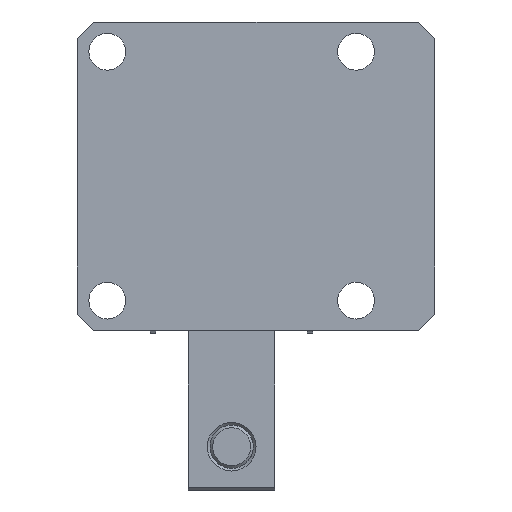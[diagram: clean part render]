
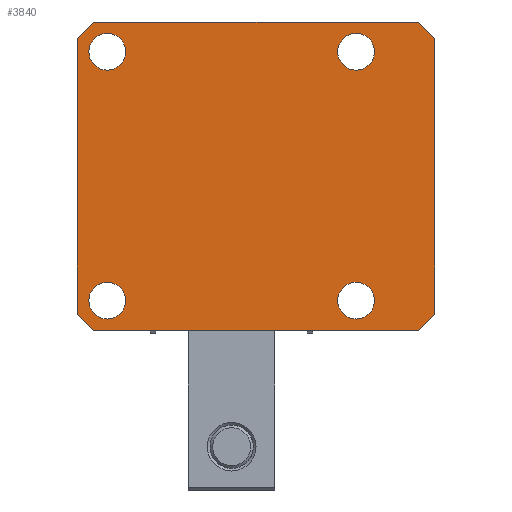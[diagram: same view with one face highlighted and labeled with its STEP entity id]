
A CAD part, front view. The second image highlights one B-rep face of the part: STEP entity #3840.
In plain terms, the highlighted planar face has unit normal (0, -1, 0).
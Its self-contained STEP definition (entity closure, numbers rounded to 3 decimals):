
#145=PLANE('',#4397);
#246=FACE_BOUND('',#687,.T.);
#247=FACE_BOUND('',#688,.T.);
#248=FACE_BOUND('',#689,.T.);
#249=FACE_BOUND('',#690,.T.);
#456=FACE_OUTER_BOUND('',#686,.T.);
#686=EDGE_LOOP('',(#2825,#2826,#2827,#2828,#2829,#2830,#2831,#2832));
#687=EDGE_LOOP('',(#2833));
#688=EDGE_LOOP('',(#2834));
#689=EDGE_LOOP('',(#2835));
#690=EDGE_LOOP('',(#2836));
#952=LINE('',#6260,#1256);
#980=LINE('',#6316,#1284);
#981=LINE('',#6320,#1285);
#982=LINE('',#6321,#1286);
#983=LINE('',#6323,#1287);
#984=LINE('',#6325,#1288);
#985=LINE('',#6327,#1289);
#986=LINE('',#6328,#1290);
#1256=VECTOR('',#4928,1000.);
#1284=VECTOR('',#4974,1000.);
#1285=VECTOR('',#4977,1000.);
#1286=VECTOR('',#4978,1000.);
#1287=VECTOR('',#4979,1000.);
#1288=VECTOR('',#4980,1000.);
#1289=VECTOR('',#4981,1000.);
#1290=VECTOR('',#4982,1000.);
#1536=CIRCLE('',#4337,3.4);
#1539=CIRCLE('',#4341,3.4);
#1540=CIRCLE('',#4343,3.4);
#1543=CIRCLE('',#4347,3.4);
#1726=VERTEX_POINT('',#5985);
#1729=VERTEX_POINT('',#5993);
#1730=VERTEX_POINT('',#5997);
#1733=VERTEX_POINT('',#6005);
#1775=VERTEX_POINT('',#6257);
#1776=VERTEX_POINT('',#6259);
#1795=VERTEX_POINT('',#6314);
#1796=VERTEX_POINT('',#6318);
#1797=VERTEX_POINT('',#6319);
#1798=VERTEX_POINT('',#6322);
#1799=VERTEX_POINT('',#6324);
#1800=VERTEX_POINT('',#6326);
#2099=EDGE_CURVE('',#1726,#1726,#1536,.T.);
#2103=EDGE_CURVE('',#1729,#1729,#1539,.T.);
#2105=EDGE_CURVE('',#1730,#1730,#1540,.T.);
#2109=EDGE_CURVE('',#1733,#1733,#1543,.T.);
#2167=EDGE_CURVE('',#1776,#1775,#952,.T.);
#2196=EDGE_CURVE('',#1795,#1775,#980,.T.);
#2197=EDGE_CURVE('',#1796,#1797,#981,.T.);
#2198=EDGE_CURVE('',#1797,#1776,#982,.T.);
#2199=EDGE_CURVE('',#1795,#1798,#983,.T.);
#2200=EDGE_CURVE('',#1798,#1799,#984,.T.);
#2201=EDGE_CURVE('',#1799,#1800,#985,.T.);
#2202=EDGE_CURVE('',#1800,#1796,#986,.T.);
#2825=ORIENTED_EDGE('',*,*,#2197,.T.);
#2826=ORIENTED_EDGE('',*,*,#2198,.T.);
#2827=ORIENTED_EDGE('',*,*,#2167,.T.);
#2828=ORIENTED_EDGE('',*,*,#2196,.F.);
#2829=ORIENTED_EDGE('',*,*,#2199,.T.);
#2830=ORIENTED_EDGE('',*,*,#2200,.T.);
#2831=ORIENTED_EDGE('',*,*,#2201,.T.);
#2832=ORIENTED_EDGE('',*,*,#2202,.T.);
#2833=ORIENTED_EDGE('',*,*,#2099,.T.);
#2834=ORIENTED_EDGE('',*,*,#2103,.T.);
#2835=ORIENTED_EDGE('',*,*,#2105,.T.);
#2836=ORIENTED_EDGE('',*,*,#2109,.T.);
#3840=ADVANCED_FACE('',(#456,#246,#247,#248,#249),#145,.T.);
#4337=AXIS2_PLACEMENT_3D('',#5986,#4799,#4800);
#4341=AXIS2_PLACEMENT_3D('',#5994,#4808,#4809);
#4343=AXIS2_PLACEMENT_3D('',#5998,#4813,#4814);
#4347=AXIS2_PLACEMENT_3D('',#6006,#4822,#4823);
#4397=AXIS2_PLACEMENT_3D('',#6317,#4975,#4976);
#4799=DIRECTION('center_axis',(0.,1.,0.));
#4800=DIRECTION('ref_axis',(0.,0.,1.));
#4808=DIRECTION('center_axis',(0.,1.,0.));
#4809=DIRECTION('ref_axis',(0.,0.,1.));
#4813=DIRECTION('center_axis',(0.,1.,0.));
#4814=DIRECTION('ref_axis',(0.,0.,1.));
#4822=DIRECTION('center_axis',(0.,1.,0.));
#4823=DIRECTION('ref_axis',(0.,0.,1.));
#4928=DIRECTION('',(1.,0.,0.));
#4974=DIRECTION('',(-0.707,0.,-0.707));
#4975=DIRECTION('center_axis',(0.,-1.,0.));
#4976=DIRECTION('ref_axis',(0.,0.,-1.));
#4977=DIRECTION('',(0.,0.,-1.));
#4978=DIRECTION('',(0.707,0.,-0.707));
#4979=DIRECTION('',(0.,0.,1.));
#4980=DIRECTION('',(-0.707,0.,0.707));
#4981=DIRECTION('',(-1.,0.,0.));
#4982=DIRECTION('',(-0.707,0.,-0.707));
#5985=CARTESIAN_POINT('',(-458.049,141.613,-26.4));
#5986=CARTESIAN_POINT('Origin',(-458.049,141.613,-23.));
#5993=CARTESIAN_POINT('',(-412.049,141.613,-26.4));
#5994=CARTESIAN_POINT('Origin',(-412.049,141.613,-23.));
#5997=CARTESIAN_POINT('',(-412.049,141.613,19.6));
#5998=CARTESIAN_POINT('Origin',(-412.049,141.613,23.));
#6005=CARTESIAN_POINT('',(-458.049,141.613,19.6));
#6006=CARTESIAN_POINT('Origin',(-458.049,141.613,23.));
#6257=CARTESIAN_POINT('',(-400.549,141.613,-28.5));
#6259=CARTESIAN_POINT('',(-460.549,141.613,-28.5));
#6260=CARTESIAN_POINT('',(-460.549,141.613,-28.5));
#6314=CARTESIAN_POINT('',(-397.549,141.613,-25.5));
#6316=CARTESIAN_POINT('',(-397.549,141.613,-25.5));
#6317=CARTESIAN_POINT('Origin',(-463.549,141.613,-28.5));
#6318=CARTESIAN_POINT('',(-463.549,141.613,25.5));
#6319=CARTESIAN_POINT('',(-463.549,141.613,-25.5));
#6320=CARTESIAN_POINT('',(-463.549,141.613,-28.5));
#6321=CARTESIAN_POINT('',(-463.549,141.613,-25.5));
#6322=CARTESIAN_POINT('',(-397.549,141.613,25.5));
#6323=CARTESIAN_POINT('',(-397.549,141.613,-28.5));
#6324=CARTESIAN_POINT('',(-400.549,141.613,28.5));
#6325=CARTESIAN_POINT('',(-397.549,141.613,25.5));
#6326=CARTESIAN_POINT('',(-460.549,141.613,28.5));
#6327=CARTESIAN_POINT('',(-463.549,141.613,28.5));
#6328=CARTESIAN_POINT('',(-460.549,141.613,28.5));
